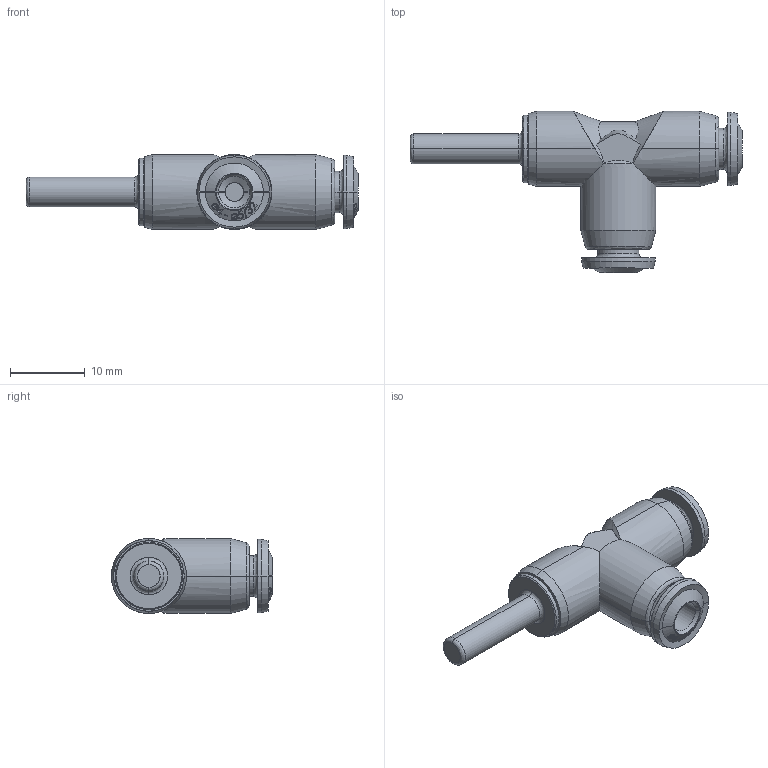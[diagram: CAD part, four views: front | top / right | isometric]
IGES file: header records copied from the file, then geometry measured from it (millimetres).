
Start section: SolidWorks IGES file using analytic representation for surfaces
Global section: file name: \\192.168.0.114\Utecnico\Disegni\Disegni Esecutivi\SERIE 55000\ASSIEMI_55000\55235\IGES e STEP\5523500002A.IGS; native system: SolidWorks 2020; preprocessor: SolidWorks 2020; author: CAD13; date: 250905.143516; units: millimetre
Bounding box: 44.3 x 21.5 x 10 mm (x, y, z)
Surface area: 2113.8 mm2 (no closed solid volume)
Topology: 0 solids, 0 shells, 332 faces, 3303 edges, 3303 vertices
Faces by surface type: bspline 244, revolution 88
